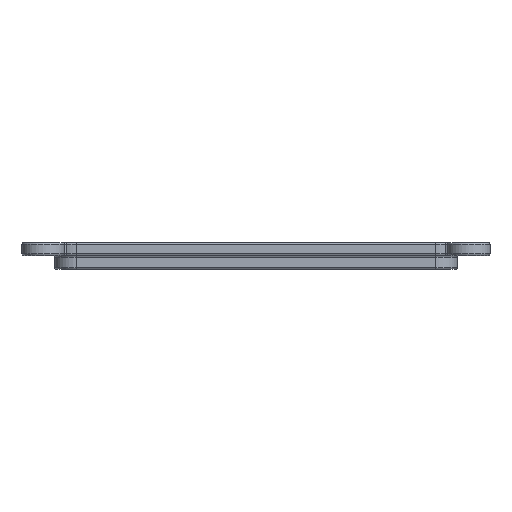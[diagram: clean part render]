
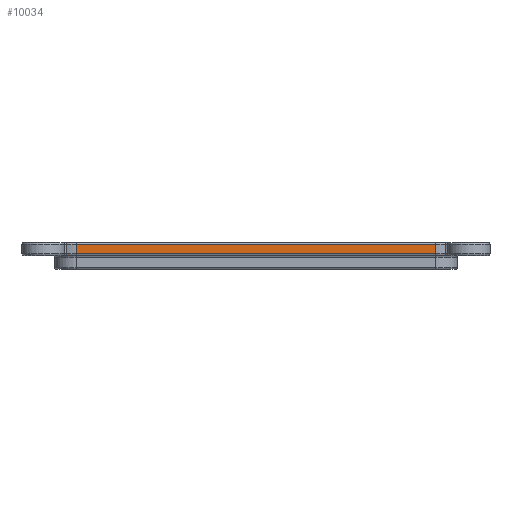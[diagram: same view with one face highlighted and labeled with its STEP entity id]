
A CAD part, front view. The second image highlights one B-rep face of the part: STEP entity #10034.
In plain terms, the highlighted planar face has unit normal (0, -1, 0).
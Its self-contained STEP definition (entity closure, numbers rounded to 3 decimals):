
#898 = CYLINDRICAL_SURFACE('',#899,0.4);
#899 = AXIS2_PLACEMENT_3D('',#900,#901,#902);
#900 = CARTESIAN_POINT('',(-112.4,-55.,49.));
#901 = DIRECTION('',(1.,0.,0.));
#902 = DIRECTION('',(0.,0.,-1.));
#1958 = CYLINDRICAL_SURFACE('',#1959,0.4);
#1959 = AXIS2_PLACEMENT_3D('',#1960,#1961,#1962);
#1960 = CARTESIAN_POINT('',(-112.4,-55.,51.));
#1961 = DIRECTION('',(1.,0.,0.));
#1962 = DIRECTION('',(0.,0.,1.));
#4481 = VERTEX_POINT('',#4482);
#4482 = CARTESIAN_POINT('',(-112.4,-55.4,49.));
#4517 = CYLINDRICAL_SURFACE('',#4518,7.4);
#4518 = AXIS2_PLACEMENT_3D('',#4519,#4520,#4521);
#4519 = CARTESIAN_POINT('',(-112.4,-48.,48.6));
#4520 = DIRECTION('',(0.,0.,1.));
#4521 = DIRECTION('',(-1.,0.,0.));
#4582 = EDGE_CURVE('',#4481,#4583,#4585,.T.);
#4583 = VERTEX_POINT('',#4584);
#4584 = CARTESIAN_POINT('',(-34.4,-55.4,49.));
#4585 = SURFACE_CURVE('',#4586,(#4590,#4597),.PCURVE_S1.);
#4586 = LINE('',#4587,#4588);
#4587 = CARTESIAN_POINT('',(-112.4,-55.4,49.));
#4588 = VECTOR('',#4589,1.);
#4589 = DIRECTION('',(1.,0.,0.));
#4590 = PCURVE('',#898,#4591);
#4591 = DEFINITIONAL_REPRESENTATION('',(#4592),#4596);
#4592 = LINE('',#4593,#4594);
#4593 = CARTESIAN_POINT('',(-1.571,0.));
#4594 = VECTOR('',#4595,1.);
#4595 = DIRECTION('',(-0.,1.));
#4596 = ( GEOMETRIC_REPRESENTATION_CONTEXT(2) 
PARAMETRIC_REPRESENTATION_CONTEXT() REPRESENTATION_CONTEXT('2D SPACE',''
  ) );
#4597 = PCURVE('',#4598,#4603);
#4598 = PLANE('',#4599);
#4599 = AXIS2_PLACEMENT_3D('',#4600,#4601,#4602);
#4600 = CARTESIAN_POINT('',(-119.8,-55.4,48.6));
#4601 = DIRECTION('',(0.,1.,0.));
#4602 = DIRECTION('',(0.,0.,1.));
#4603 = DEFINITIONAL_REPRESENTATION('',(#4604),#4608);
#4604 = LINE('',#4605,#4606);
#4605 = CARTESIAN_POINT('',(0.4,7.4));
#4606 = VECTOR('',#4607,1.);
#4607 = DIRECTION('',(0.,1.));
#4608 = ( GEOMETRIC_REPRESENTATION_CONTEXT(2) 
PARAMETRIC_REPRESENTATION_CONTEXT() REPRESENTATION_CONTEXT('2D SPACE',''
  ) );
#4777 = CYLINDRICAL_SURFACE('',#4778,7.4);
#4778 = AXIS2_PLACEMENT_3D('',#4779,#4780,#4781);
#4779 = CARTESIAN_POINT('',(-34.4,-48.,48.6));
#4780 = DIRECTION('',(0.,0.,1.));
#4781 = DIRECTION('',(1.,0.,0.));
#6244 = VERTEX_POINT('',#6245);
#6245 = CARTESIAN_POINT('',(-112.4,-55.4,51.));
#6340 = EDGE_CURVE('',#6244,#6341,#6343,.T.);
#6341 = VERTEX_POINT('',#6342);
#6342 = CARTESIAN_POINT('',(-34.4,-55.4,51.));
#6343 = SURFACE_CURVE('',#6344,(#6348,#6355),.PCURVE_S1.);
#6344 = LINE('',#6345,#6346);
#6345 = CARTESIAN_POINT('',(-112.4,-55.4,51.));
#6346 = VECTOR('',#6347,1.);
#6347 = DIRECTION('',(1.,0.,0.));
#6348 = PCURVE('',#1958,#6349);
#6349 = DEFINITIONAL_REPRESENTATION('',(#6350),#6354);
#6350 = LINE('',#6351,#6352);
#6351 = CARTESIAN_POINT('',(1.571,0.));
#6352 = VECTOR('',#6353,1.);
#6353 = DIRECTION('',(0.,1.));
#6354 = ( GEOMETRIC_REPRESENTATION_CONTEXT(2) 
PARAMETRIC_REPRESENTATION_CONTEXT() REPRESENTATION_CONTEXT('2D SPACE',''
  ) );
#6355 = PCURVE('',#4598,#6356);
#6356 = DEFINITIONAL_REPRESENTATION('',(#6357),#6361);
#6357 = LINE('',#6358,#6359);
#6358 = CARTESIAN_POINT('',(2.4,7.4));
#6359 = VECTOR('',#6360,1.);
#6360 = DIRECTION('',(0.,1.));
#6361 = ( GEOMETRIC_REPRESENTATION_CONTEXT(2) 
PARAMETRIC_REPRESENTATION_CONTEXT() REPRESENTATION_CONTEXT('2D SPACE',''
  ) );
#10011 = EDGE_CURVE('',#4481,#6244,#10012,.T.);
#10012 = SURFACE_CURVE('',#10013,(#10017,#10024),.PCURVE_S1.);
#10013 = LINE('',#10014,#10015);
#10014 = CARTESIAN_POINT('',(-112.4,-55.4,48.6));
#10015 = VECTOR('',#10016,1.);
#10016 = DIRECTION('',(0.,0.,1.));
#10017 = PCURVE('',#4517,#10018);
#10018 = DEFINITIONAL_REPRESENTATION('',(#10019),#10023);
#10019 = LINE('',#10020,#10021);
#10020 = CARTESIAN_POINT('',(1.571,0.));
#10021 = VECTOR('',#10022,1.);
#10022 = DIRECTION('',(0.,1.));
#10023 = ( GEOMETRIC_REPRESENTATION_CONTEXT(2) 
PARAMETRIC_REPRESENTATION_CONTEXT() REPRESENTATION_CONTEXT('2D SPACE',''
  ) );
#10024 = PCURVE('',#4598,#10025);
#10025 = DEFINITIONAL_REPRESENTATION('',(#10026),#10030);
#10026 = LINE('',#10027,#10028);
#10027 = CARTESIAN_POINT('',(0.,7.4));
#10028 = VECTOR('',#10029,1.);
#10029 = DIRECTION('',(1.,0.));
#10030 = ( GEOMETRIC_REPRESENTATION_CONTEXT(2) 
PARAMETRIC_REPRESENTATION_CONTEXT() REPRESENTATION_CONTEXT('2D SPACE',''
  ) );
#10034 = ADVANCED_FACE('',(#10035),#4598,.F.);
#10035 = FACE_BOUND('',#10036,.F.);
#10036 = EDGE_LOOP('',(#10037,#10038,#10039,#10060));
#10037 = ORIENTED_EDGE('',*,*,#10011,.T.);
#10038 = ORIENTED_EDGE('',*,*,#6340,.T.);
#10039 = ORIENTED_EDGE('',*,*,#10040,.F.);
#10040 = EDGE_CURVE('',#4583,#6341,#10041,.T.);
#10041 = SURFACE_CURVE('',#10042,(#10046,#10053),.PCURVE_S1.);
#10042 = LINE('',#10043,#10044);
#10043 = CARTESIAN_POINT('',(-34.4,-55.4,48.6));
#10044 = VECTOR('',#10045,1.);
#10045 = DIRECTION('',(0.,0.,1.));
#10046 = PCURVE('',#4598,#10047);
#10047 = DEFINITIONAL_REPRESENTATION('',(#10048),#10052);
#10048 = LINE('',#10049,#10050);
#10049 = CARTESIAN_POINT('',(0.,85.4));
#10050 = VECTOR('',#10051,1.);
#10051 = DIRECTION('',(1.,0.));
#10052 = ( GEOMETRIC_REPRESENTATION_CONTEXT(2) 
PARAMETRIC_REPRESENTATION_CONTEXT() REPRESENTATION_CONTEXT('2D SPACE',''
  ) );
#10053 = PCURVE('',#4777,#10054);
#10054 = DEFINITIONAL_REPRESENTATION('',(#10055),#10059);
#10055 = LINE('',#10056,#10057);
#10056 = CARTESIAN_POINT('',(-1.571,0.));
#10057 = VECTOR('',#10058,1.);
#10058 = DIRECTION('',(-0.,1.));
#10059 = ( GEOMETRIC_REPRESENTATION_CONTEXT(2) 
PARAMETRIC_REPRESENTATION_CONTEXT() REPRESENTATION_CONTEXT('2D SPACE',''
  ) );
#10060 = ORIENTED_EDGE('',*,*,#4582,.F.);
